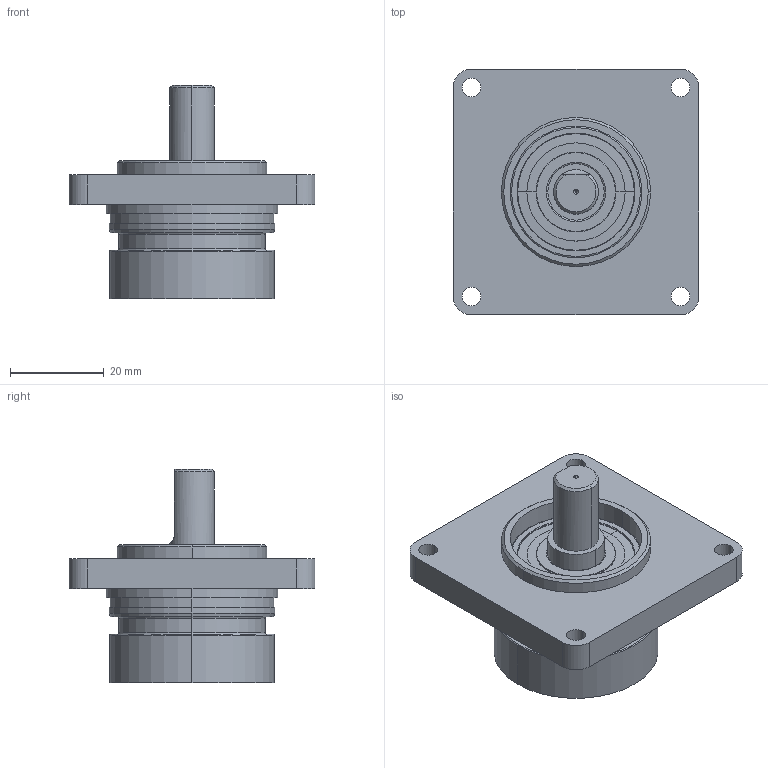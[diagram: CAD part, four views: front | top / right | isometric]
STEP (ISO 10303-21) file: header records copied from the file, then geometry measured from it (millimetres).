
FILE_DESCRIPTION (( 'STEP AP203' ), '1' );
FILE_NAME ('MCD-3A70-Q5A-N.STEP', '2013-10-25T11:28:13', ( 'Admin' ), ( 'Microsoft' ), 'SwSTEP 2.0', 'SolidWorks 2006104', '' );
FILE_SCHEMA (( 'CONFIG_CONTROL_DESIGN' ));
Length unit declared in the file: millimetre
Products named in the file (16): Grooved ball bearing 61801-2Z _20101212_PART4; 6001_2Z_PART4; Grooved ball bearing 61801-2Z _20101212_Standard; Flange MCD 3_10020640_46W3978-00; MCD-3A70-Q5A-N; 6001_2Z_Standard; 6001_2Z_PART5; 6001_2Z_PART3; 6001_2Z_PART2; 6001_2Z_PART1; Shaft MCD C 9.52x16 A7_10020641_46W3979-00_Standard; Quadrangular Magnet_ 10004748_Standard; Grooved ball bearing 61801-2Z _20101212_PART3; Grooved ball bearing 61801-2Z _20101212_PART2; Grooved ball bearing 61801-2Z _20101212_PART1; Grooved ball bearing 61801-2Z _20101212_PART5
Assembly tree (33 placements, depth 3):
  MCD-3A70-Q5A-N
    Shaft MCD C 9.52x16 A7_10020641_46W3979-00_Standard
    Quadrangular Magnet_ 10004748_Standard
    Grooved ball bearing 61801-2Z _20101212_Standard
      Grooved ball bearing 61801-2Z _20101212_PART5  x12
      Grooved ball bearing 61801-2Z _20101212_PART3
      Grooved ball bearing 61801-2Z _20101212_PART4
      Grooved ball bearing 61801-2Z _20101212_PART1
      Grooved ball bearing 61801-2Z _20101212_PART2
    Flange MCD 3_10020640_46W3978-00
    6001_2Z_Standard
      6001_2Z_PART5  x8
      6001_2Z_PART2
      6001_2Z_PART3
      6001_2Z_PART4
      6001_2Z_PART1
Bounding box: 52.32 x 52.32 x 45.35 mm (x, y, z)
Volume: 27387.4 mm3; surface area: 21572.2 mm2
Topology: 33 solids, 33 shells, 300 faces, 693 edges, 431 vertices
Faces by surface type: cylinder 107, plane 61, torus 58, sphere 40, cone 34
Entity records: 9483 total; most frequent: DIRECTION 1499, CARTESIAN_POINT 1228, ORIENTED_EDGE 1106, AXIS2_PLACEMENT_3D 648, EDGE_CURVE 553, CIRCLE 346, VERTEX_POINT 335, EDGE_LOOP 308
